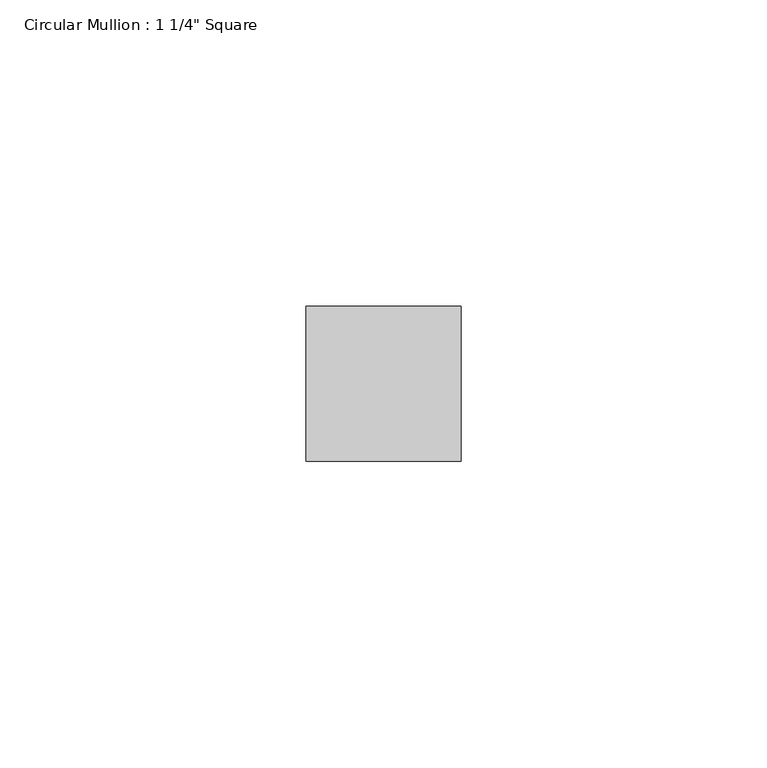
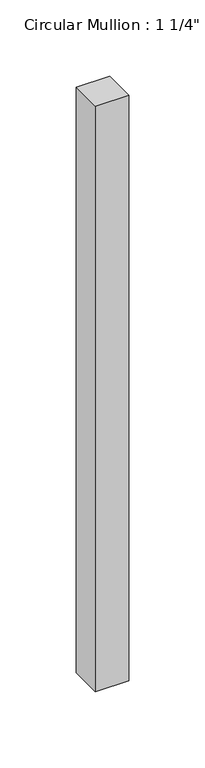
"""IFC4 building model written with IfcOpenShell, lengths in millimetres: member geometry."""

import ifcopenshell
import ifcopenshell.guid

model = None  # the IFC model being written
_history = None  # IfcOwnerHistory: only IFC2X3 demands one
_inside = {}  # id of a spatial element -> (the spatial element, [elements in it])
_under = {}  # id of a project, library or spatial element -> (it, [spatial elements below it])
_declared = {}  # id of a project -> (the project, [libraries it declares])
_typed = {}  # id of a type object -> (the type object, [elements of that type])
_made_of = {}  # id of a material, layer set ... -> (it, [elements and type objects made of it])


def new_model(schema):
    """Start an empty IFC model of exactly this schema.

    Asked for "IFC4X3", IfcOpenShell would pick the latest addendum, in which some entities
    have other attributes; the version numbers below select the first issue.
    IFC2X3 requires an IfcOwnerHistory on every rooted entity: one is made here for all.
    """
    global model, _history
    if schema == "IFC4X3":
        model = ifcopenshell.file(schema_version=(4, 3, 0, 0))
    else:
        model = ifcopenshell.file(schema=schema)
    _inside.clear()
    _under.clear()
    _declared.clear()
    _typed.clear()
    _made_of.clear()
    _history = None
    if model.schema == "IFC2X3":
        org = make("IfcOrganization", Name="unknown")
        user = make(
            "IfcPersonAndOrganization",
            ThePerson=make("IfcPerson", FamilyName="unknown"),
            TheOrganization=org,
        )
        app = make(
            "IfcApplication",
            ApplicationDeveloper=org,
            Version="unknown",
            ApplicationFullName="unknown",
            ApplicationIdentifier="unknown",
        )
        _history = make(
            "IfcOwnerHistory",
            OwningUser=user,
            OwningApplication=app,
            ChangeAction="ADDED",
            CreationDate=0,
        )
    return model


def make(cls, **values):
    """One entity of the class cls with the attributes given. An attribute that is None is left unset."""
    return model.create_entity(
        cls, **{name: value for name, value in values.items() if value is not None}
    )


def rooted(cls, **values):
    """An entity with a GlobalId (a new one), such as an element, a storey or a relation."""
    return make(cls, GlobalId=ifcopenshell.guid.new(), OwnerHistory=_history, **values)


def si_unit(unit_type, name, prefix=None):
    """IfcSIUnit, for example si_unit("LENGTHUNIT", "METRE", prefix="MILLI")."""
    return make("IfcSIUnit", UnitType=unit_type, Prefix=prefix, Name=name)


def assignment(units):
    """IfcUnitAssignment: the units of a project."""
    return None if units is None else make("IfcUnitAssignment", Units=units)


def point(xyz):
    """IfcCartesianPoint."""
    return None if xyz is None else make("IfcCartesianPoint", Coordinates=xyz)


def direction(xyz):
    """IfcDirection."""
    return None if xyz is None else make("IfcDirection", DirectionRatios=xyz)


def frame(location, z_axis=None, x_axis=None):
    """IfcAxis2Placement3D, a coordinate frame: its origin and axes. An axis left out is left unset."""
    return make(
        "IfcAxis2Placement3D",
        Location=point(location),
        Axis=direction(z_axis),
        RefDirection=direction(x_axis),
    )


def origin():
    """The frame at (0, 0, 0) with its axes left unset."""
    return frame((0.0, 0.0, 0.0))


def place(relative_to, where):
    """IfcLocalPlacement: puts the frame where relative to a parent placement (None: the world)."""
    return make(
        "IfcLocalPlacement", PlacementRelTo=relative_to, RelativePlacement=where
    )


def context(
    kind, dimensions, precision=None, world=None, true_north=None, identifier=None
):
    """IfcGeometricRepresentationContext, for example the 3D "Model" context."""
    return make(
        "IfcGeometricRepresentationContext",
        ContextIdentifier=identifier,
        ContextType=kind,
        CoordinateSpaceDimension=dimensions,
        Precision=precision,
        WorldCoordinateSystem=world,
        TrueNorth=true_north,
    )


def project(units=None, contexts=None):
    """IfcProject with its units and contexts."""
    return rooted(
        "IfcProject",
        Name="project",
        RepresentationContexts=contexts,
        UnitsInContext=assignment(units),
    )


def spatial(cls, under=None, at=None, **own):
    """A site, building, storey or space (cls), placed at a placement, below another one or the project."""
    s = rooted(cls, ObjectPlacement=at, **own)
    if under is not None:
        _under.setdefault(under.id(), (under, []))[1].append(s)
    return s


def polyline(points):
    """IfcPolyline through the points."""
    return make("IfcPolyline", Points=[point(p) for p in points])


def outline(outer, holes=None, kind="AREA"):
    """IfcArbitraryClosedProfileDef: a profile drawn as a closed curve; with holes, ...WithVoids."""
    if holes is None:
        return make("IfcArbitraryClosedProfileDef", ProfileType=kind, OuterCurve=outer)
    return make(
        "IfcArbitraryProfileDefWithVoids",
        ProfileType=kind,
        OuterCurve=outer,
        InnerCurves=holes,
    )


def extrude(swept, where, along, depth):
    """IfcExtrudedAreaSolid: the profile swept, set in the frame where, extruded along a direction by depth."""
    return make(
        "IfcExtrudedAreaSolid",
        SweptArea=swept,
        Position=where,
        ExtrudedDirection=direction(along),
        Depth=depth,
    )


def shape(context_of_items, identifier, shape_type, items):
    """IfcShapeRepresentation: the items that make up one representation, for example the "Body"."""
    return make(
        "IfcShapeRepresentation",
        ContextOfItems=context_of_items,
        RepresentationIdentifier=identifier,
        RepresentationType=shape_type,
        Items=items,
    )


def source(mapping_origin, context_of_items, identifier, shape_type, items):
    """IfcRepresentationMap: a shape defined once, which mapped items show again and again."""
    return make(
        "IfcRepresentationMap",
        MappingOrigin=mapping_origin,
        MappedRepresentation=shape(context_of_items, identifier, shape_type, items),
    )


def transform(
    local_origin,
    x_axis=None,
    y_axis=None,
    z_axis=None,
    scale=None,
    scale2=None,
    scale3=None,
    uniform=True,
):
    """IfcCartesianTransformationOperator3D, or its non-uniform kind. x_axis, y_axis, z_axis: its Axis1, 2, 3."""
    if uniform:
        return make(
            "IfcCartesianTransformationOperator3D",
            Axis1=direction(x_axis),
            Axis2=direction(y_axis),
            LocalOrigin=point(local_origin),
            Scale=scale,
            Axis3=direction(z_axis),
        )
    return make(
        "IfcCartesianTransformationOperator3DnonUniform",
        Axis1=direction(x_axis),
        Axis2=direction(y_axis),
        LocalOrigin=point(local_origin),
        Scale=scale,
        Axis3=direction(z_axis),
        Scale2=scale2,
        Scale3=scale3,
    )


def mapped(mapping_source, mapping_target):
    """IfcMappedItem: shows the shape of a source again, moved by a transform."""
    return make(
        "IfcMappedItem", MappingSource=mapping_source, MappingTarget=mapping_target
    )


def made_of(thing, what):
    """Note that an element or type object is made of a material, layer set ...; save() writes the relation."""
    if what is not None:
        _made_of.setdefault(what.id(), (what, []))[1].append(thing)
    return thing


def element(
    cls,
    number,
    at=None,
    inside=None,
    cuts=None,
    type_object=None,
    material=None,
    context=None,
    identifier="Body",
    shape_type=None,
    held_by="IfcProductDefinitionShape",
    body=None,
    shapes=None,
    **own,
):
    """One element of the class cls, such as IfcWall. Its Tag is "e" and its number.

    at: its placement. inside: the storey or other place that contains it. cuts: it is an
    opening in that element (IfcRelVoidsElement). A single representation is given by context,
    identifier, shape_type and body (its items); several are given by shapes. held_by: the class
    of the entity that holds the representations. save() writes the other relations.
    """
    e = rooted(cls, Tag="e%d" % number, ObjectPlacement=at, **own)
    if body is not None:
        shapes = [shape(context, identifier, shape_type, body)]
    if shapes is not None:
        e.Representation = make(held_by, Representations=shapes)
    if inside is not None:
        _inside.setdefault(inside.id(), (inside, []))[1].append(e)
    if cuts is not None:
        rooted(
            "IfcRelVoidsElement", RelatingBuildingElement=cuts, RelatedOpeningElement=e
        )
    if type_object is not None:
        _typed.setdefault(type_object.id(), (type_object, []))[1].append(e)
    return made_of(e, material)


def aggregate(whole, parts):
    """IfcRelAggregates: a whole, such as a stair, and the parts it consists of."""
    return rooted("IfcRelAggregates", RelatingObject=whole, RelatedObjects=parts)


def save(model, path):
    """Write the relations noted so far, then the file.

    IfcRelAggregates (storeys below a building ...), IfcRelContainedInSpatialStructure (elements
    in a storey), IfcRelDefinesByType, IfcRelAssociatesMaterial and IfcRelDeclares: one each for
    every whole, place, type object, material and project.
    """
    for whole, parts in _under.values():
        aggregate(whole, parts)
    for where, things in _inside.values():
        rooted(
            "IfcRelContainedInSpatialStructure",
            RelatedElements=things,
            RelatingStructure=where,
        )
    for kind, things in _typed.values():
        rooted("IfcRelDefinesByType", RelatedObjects=things, RelatingType=kind)
    for what, things in _made_of.values():
        rooted("IfcRelAssociatesMaterial", RelatedObjects=things, RelatingMaterial=what)
    for by, libraries in _declared.values():
        rooted("IfcRelDeclares", RelatingContext=by, RelatedDefinitions=libraries)
    model.write(path)


def member_68d7b224(model_context):
    return source(origin(), model_context, "Body", "SweptSolid", [
        extrude(outline(polyline([(12.7, 12.7), (12.7, -12.7), (-12.7, -12.7), (-12.7, 12.7), (12.7, 12.7)])), frame((0.0, 0.0, -469.9), z_axis=(0.0, 0.0, 1.0), x_axis=(1.0, 0.0, 0.0)), (0.0, 0.0, 1.0), 469.9),
    ])


if __name__ == "__main__":
    model = new_model("IFC4")
    model_context = context("Model", 3, world=origin())
    ifc_project = project(units=[si_unit("LENGTHUNIT", "METRE", prefix="MILLI")], contexts=[model_context])
    site = spatial("IfcSite", under=ifc_project)
    building = spatial("IfcBuilding", under=site)
    placement = place(None, origin())
    member_shape = member_68d7b224(model_context)
    element("IfcMember", 1, ObjectType="Circular Mullion : 1 1/4\" Square", at=placement, inside=building, context=model_context, shape_type="MappedRepresentation", body=[
        mapped(member_shape, transform((0.0, 0.0, 0.0), x_axis=(1.0, 0.0, 0.0), y_axis=(0.0, 1.0, 0.0), z_axis=(0.0, 0.0, 1.0))),
    ])
    save(model, "model.ifc")
